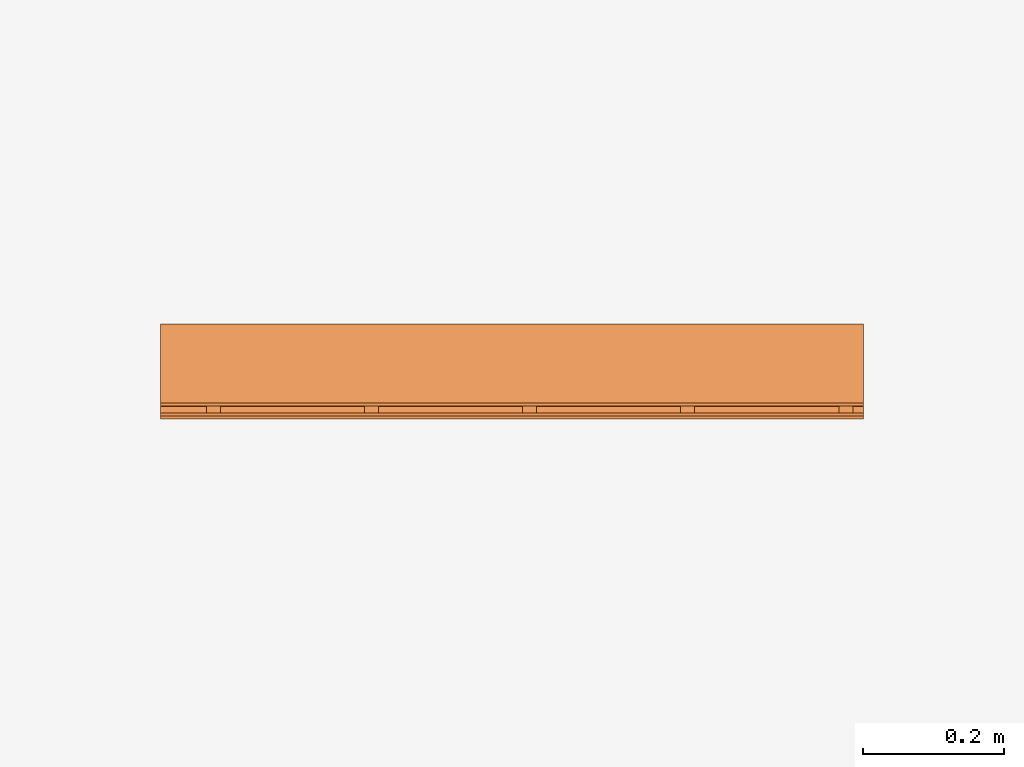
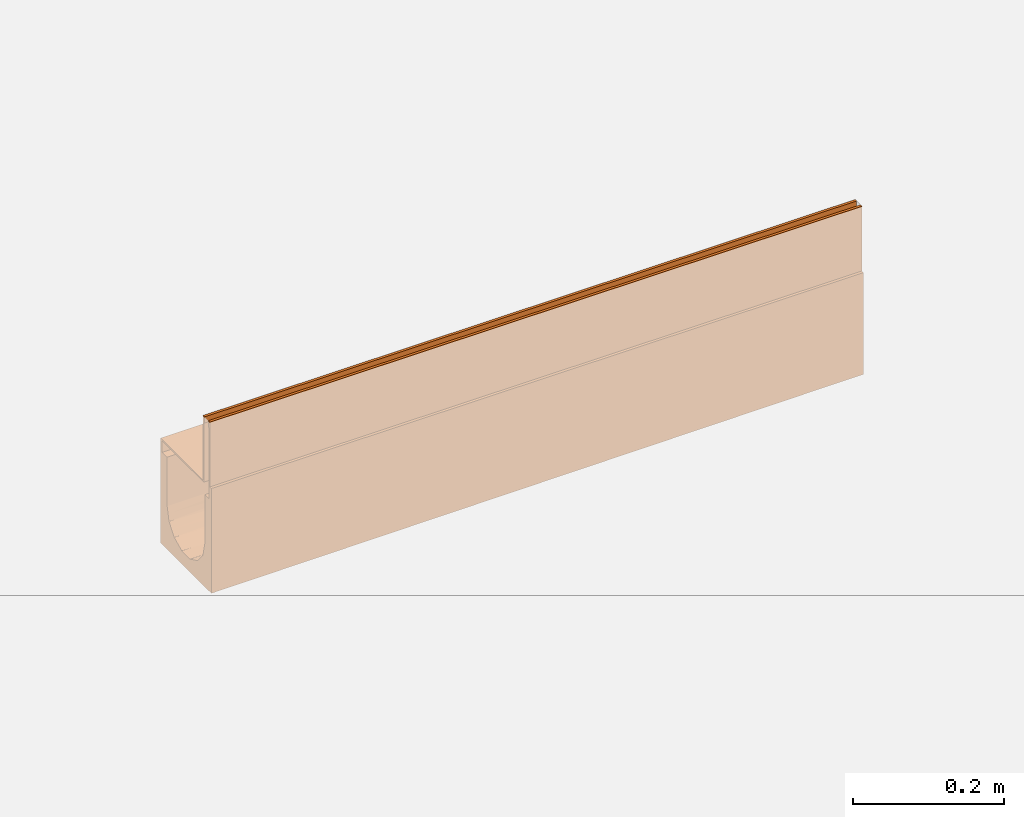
# One storey, part 2 of 2: 1 proxy.
"""IFC2X3 building model written with IfcOpenShell, lengths in millimetres."""

from ifc_helpers import new_model, entity, si_unit, converted_unit, direction, frame, origin, place, context, subcontext, project, spatial, faceted_brep, source, transform, mapped, material, material_list, element, save


model = new_model("IFC2X3")

# Units and contexts
model_context = context("Model", 3, precision=1e-06, world=origin(), true_north=direction((2.0, 6.12303176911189e-17, 1.0)))
context_of_model = context(None, 3, precision=1e-06, world=origin(), true_north=direction((2.0, 6.12303176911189e-17, 1.0)))
body_context = subcontext(model_context, "Body", "Model", "MODEL_VIEW")
ifc_project = project(units=[si_unit("LENGTHUNIT", "METRE", prefix="MILLI"), si_unit("AREAUNIT", "SQUARE_METRE", prefix="MILLI"), si_unit("VOLUMEUNIT", "CUBIC_METRE", prefix="MILLI"), converted_unit("PLANEANGLEUNIT", "DEGREE", entity("IfcRatioMeasure", 0.0174532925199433), si_unit("PLANEANGLEUNIT", "RADIAN"), dimensions=[0, 0, 0, 0, 0, 0, 0]), si_unit("TIMEUNIT", "SECOND")], contexts=[model_context, context_of_model])

# Site, building, storey
site_placement = place(None, origin())
site = spatial("IfcSite", under=ifc_project, at=site_placement, Name="Default", CompositionType="ELEMENT")
building_placement = place(site_placement, origin())
building = spatial("IfcBuilding", under=site, at=building_placement, CompositionType="ELEMENT")
storey_placement = place(building_placement, origin())
storey = spatial("IfcBuildingStorey", under=building, at=storey_placement, Name="Level 1", CompositionType="ELEMENT", Elevation=0.0)

# Proxy
ifc_material_1 = material(Name="Steel, Galvanized")
ifc_material_2 = material(Name="Vienite® Synthetic Resin Concrete")
ifc_material_list = material_list([ifc_material_1, ifc_material_2])
shared_shape = source(origin(), body_context, "Body", "Brep", [
    faceted_brep([(63.249999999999, 15.0, -107.0), (63.249999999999, 17.0, -109.0), (63.249999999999, 33.0, -109.0), (63.249999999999, 35.0, -107.0), (63.249999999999, 17.0, -123.499999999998), (63.249999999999, 15.0, -125.499999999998), (63.249999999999, 33.0, -123.499999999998), (63.249999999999, 35.0, -125.499999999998), (-61.250000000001, 15.0, -125.499999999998), (-61.250000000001, 17.0, -123.499999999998), (-61.250000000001, 33.0, -123.499999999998), (-61.250000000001, 35.0, -125.499999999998), (-61.250000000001, 17.0, -109.0), (-61.250000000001, 15.0, -107.0), (-61.250000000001, 33.0, -109.0), (-61.250000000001, 35.0, -107.0)], [[[0, 1, 2, 3]], [[4, 1, 0, 5]], [[3, 2, 6, 7]], [[6, 4, 5, 7]], [[8, 9, 10, 11]], [[12, 9, 8, 13]], [[11, 10, 14, 15]], [[14, 12, 13, 15]], [[5, 0, 13, 8]], [[7, 5, 8, 11]], [[3, 7, 11, 15]], [[0, 3, 15, 13]], [[1, 4, 9, 12]], [[14, 2, 1, 12]], [[6, 2, 14, 10]], [[9, 4, 6, 10]]]),
    faceted_brep([(-47.2500000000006, 0.0, -10.0), (-47.2500000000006, 0.0, -107.0), (-45.2500000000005, 0.0, -105.0), (-45.2500000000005, 0.0, 0.0), (-49.2500000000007, 0.0, 0.0), (-49.2500000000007, 0.0, -10.0), (63.2499999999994, 0.0, -107.0), (63.2499999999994, 0.0, -105.0), (-45.2500000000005, 1000.0, -105.0), (63.2499999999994, 1000.0, -105.0), (63.2499999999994, 1000.0, -107.0), (-47.2500000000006, 1000.0, -107.0), (-47.2500000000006, 1000.0, -10.0), (-45.2500000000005, 1000.0, 0.0), (-49.2500000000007, 1000.0, -10.0), (-49.2500000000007, 1000.0, 0.0)], [[[0, 1, 2, 3]], [[4, 5, 0, 3]], [[6, 7, 2, 1]], [[8, 9, 10, 11]], [[12, 13, 8, 11]], [[12, 14, 15, 13]], [[0, 5, 14, 12]], [[11, 1, 0, 12]], [[6, 1, 11, 10]], [[9, 7, 6, 10]], [[8, 2, 7, 9]], [[3, 2, 8, 13]], [[15, 4, 3, 13]], [[5, 4, 15, 14]]]),
    faceted_brep([(-59.2500000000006, 1000.0, 0.0), (-59.2500000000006, 1000.0, -10.0), (-61.2500000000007, 1000.0, -10.0), (-63.2500000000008, 1000.0, 0.0), (-63.2500000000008, 1000.0, -125.499999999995), (-61.2500000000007, 1000.0, -125.499999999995), (-61.2500000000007, 0.0, -10.0), (-63.2500000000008, 0.0, 0.0), (-63.2500000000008, 0.0, -125.499999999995), (-61.2500000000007, 0.0, -125.499999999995), (-59.2500000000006, 0.0, 0.0), (-59.2500000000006, 0.0, -10.0)], [[[0, 1, 2, 3]], [[4, 3, 2, 5]], [[6, 7, 8, 9]], [[10, 7, 6, 11]], [[9, 8, 4, 5]], [[6, 9, 5, 2]], [[11, 6, 2, 1]], [[10, 11, 1, 0]], [[3, 7, 10, 0]], [[4, 8, 7, 3]]]),
    faceted_brep([(63.2499999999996, 465.0, -107.0), (63.2499999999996, 467.0, -109.0), (63.2499999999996, 483.0, -109.0), (63.2499999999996, 485.0, -107.0), (63.2499999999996, 467.0, -123.499999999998), (63.2499999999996, 465.0, -125.499999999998), (63.2499999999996, 483.0, -123.499999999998), (63.2499999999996, 485.0, -125.499999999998), (-61.2500000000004, 465.0, -125.499999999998), (-61.2500000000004, 467.0, -123.499999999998), (-61.2500000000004, 483.0, -123.499999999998), (-61.2500000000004, 485.0, -125.499999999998), (-61.2500000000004, 467.0, -109.0), (-61.2500000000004, 465.0, -107.0), (-61.2500000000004, 483.0, -109.0), (-61.2500000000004, 485.0, -107.0)], [[[0, 1, 2, 3]], [[4, 1, 0, 5]], [[3, 2, 6, 7]], [[6, 4, 5, 7]], [[8, 9, 10, 11]], [[12, 9, 8, 13]], [[11, 10, 14, 15]], [[14, 12, 13, 15]], [[5, 0, 13, 8]], [[7, 5, 8, 11]], [[3, 7, 11, 15]], [[0, 3, 15, 13]], [[1, 4, 9, 12]], [[2, 1, 12, 14]], [[6, 2, 14, 10]], [[4, 6, 10, 9]]]),
    faceted_brep([(63.2499999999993, 240.0, -107.0), (63.2499999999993, 242.0, -109.0), (63.2499999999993, 258.0, -109.0), (63.2499999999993, 260.0, -107.0), (63.2499999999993, 242.0, -123.499999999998), (63.2499999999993, 240.0, -125.499999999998), (63.2499999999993, 258.0, -123.499999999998), (63.2499999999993, 260.0, -125.499999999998), (-61.2500000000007, 240.0, -125.499999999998), (-61.2500000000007, 242.0, -123.499999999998), (-61.2500000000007, 258.0, -123.499999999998), (-61.2500000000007, 260.0, -125.499999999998), (-61.2500000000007, 242.0, -109.0), (-61.2500000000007, 240.0, -107.0), (-61.2500000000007, 258.0, -109.0), (-61.2500000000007, 260.0, -107.0)], [[[0, 1, 2, 3]], [[4, 1, 0, 5]], [[3, 2, 6, 7]], [[6, 4, 5, 7]], [[8, 9, 10, 11]], [[12, 9, 8, 13]], [[11, 10, 14, 15]], [[14, 12, 13, 15]], [[5, 0, 13, 8]], [[7, 5, 8, 11]], [[3, 7, 11, 15]], [[0, 3, 15, 13]], [[1, 4, 9, 12]], [[2, 1, 12, 14]], [[6, 2, 14, 10]], [[4, 6, 10, 9]]]),
    faceted_brep([(63.2500000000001, 915.0, -107.0), (63.2500000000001, 917.0, -109.0), (63.2500000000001, 933.0, -109.0), (63.2500000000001, 935.0, -107.0), (63.2500000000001, 917.0, -123.499999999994), (63.2500000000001, 915.0, -125.499999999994), (63.2500000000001, 933.0, -123.499999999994), (63.2500000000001, 935.0, -125.499999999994), (-61.2499999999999, 915.0, -125.499999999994), (-61.2499999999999, 917.0, -123.499999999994), (-61.2499999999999, 933.0, -123.499999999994), (-61.2499999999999, 935.0, -125.499999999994), (-61.2499999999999, 917.0, -109.0), (-61.2499999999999, 915.0, -107.0), (-61.2499999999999, 933.0, -109.0), (-61.2499999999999, 935.0, -107.0)], [[[0, 1, 2, 3]], [[4, 1, 0, 5]], [[3, 2, 6, 7]], [[6, 4, 5, 7]], [[8, 9, 10, 11]], [[12, 9, 8, 13]], [[11, 10, 14, 15]], [[14, 12, 13, 15]], [[5, 0, 13, 8]], [[11, 7, 5, 8]], [[3, 7, 11, 15]], [[13, 0, 3, 15]], [[1, 4, 9, 12]], [[2, 1, 12, 14]], [[6, 2, 14, 10]], [[4, 6, 10, 9]]]),
    faceted_brep([(63.2499999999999, 690.0, -107.0), (63.2499999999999, 692.0, -109.0), (63.2499999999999, 708.0, -109.0), (63.2499999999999, 710.0, -107.0), (63.2499999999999, 692.0, -123.499999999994), (63.2499999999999, 690.0, -125.499999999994), (63.2499999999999, 708.0, -123.499999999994), (63.2499999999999, 710.0, -125.499999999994), (-61.2500000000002, 690.0, -125.499999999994), (-61.2500000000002, 692.0, -123.499999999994), (-61.2500000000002, 708.0, -123.499999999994), (-61.2500000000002, 710.0, -125.499999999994), (-61.2500000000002, 692.0, -109.0), (-61.2500000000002, 690.0, -107.0), (-61.2500000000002, 708.0, -109.0), (-61.2500000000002, 710.0, -107.0)], [[[0, 1, 2, 3]], [[4, 1, 0, 5]], [[3, 2, 6, 7]], [[6, 4, 5, 7]], [[8, 9, 10, 11]], [[12, 9, 8, 13]], [[11, 10, 14, 15]], [[14, 12, 13, 15]], [[5, 0, 13, 8]], [[11, 7, 5, 8]], [[3, 7, 11, 15]], [[13, 0, 3, 15]], [[1, 4, 9, 12]], [[2, 1, 12, 14]], [[6, 2, 14, 10]], [[4, 6, 10, 9]]]),
    faceted_brep([(-67.4999999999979, 1000.0, -105.0), (-63.2499999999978, 1000.0, -105.0), (-63.2499999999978, 1000.0, -125.500000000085), (-67.4999999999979, 1000.0, -275.0), (-50.0, 1000.0, -125.500000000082), (-50.0, 1000.0, -205.0), (-47.5242216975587, 1000.0, -215.847093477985), (-45.0484433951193, 1000.0, -226.694186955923), (-31.1744900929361, 1000.0, -244.091574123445), (-21.1502683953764, 1000.0, -248.91898486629), (-11.1260466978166, 1000.0, -253.746395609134), (-38.1114667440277, 1000.0, -235.392880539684), (0.0, 1000.0, -253.746395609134), (11.126046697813, 1000.0, -253.746395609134), (50.0, 1000.0, -205.0), (50.0, 1000.0, -125.500000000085), (63.249999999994, 1000.0, -125.500000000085), (67.500000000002, 1000.0, -275.0), (63.249999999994, 1000.0, -105.0), (67.500000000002, 1000.0, -105.0), (21.1502683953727, 1000.0, -248.91898486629), (31.1744900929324, 1000.0, -244.091574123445), (45.0484433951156, 1000.0, -226.694186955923), (47.5242216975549, 1000.0, -215.847093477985), (38.111466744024, 1000.0, -235.392880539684), (-67.5000000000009, 0.0, -270.0), (-45.0484433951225, 0.0, -221.694186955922), (-46.5542373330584, 0.0, -215.096872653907), (-50.0, 0.0, -200.0), (-31.1744900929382, 0.0, -239.091574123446), (-38.1114667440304, 0.0, -230.392880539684), (-11.1260466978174, 0.0, -248.746395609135), (-21.1502683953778, 0.0, -243.91898486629), (11.1260466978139, 0.0, -248.746395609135), (0.0, 0.0, -248.746395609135), (67.4999999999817, 0.0, -270.0), (-63.2499999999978, 0.0, -125.500000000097), (-63.2499999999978, 0.0, -105.0), (-67.5000000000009, 0.0, -105.0), (-50.0, 0.0, -125.500000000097), (31.1744900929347, 0.0, -239.091574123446), (21.1502683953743, 0.0, -243.91898486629), (50.0, 0.0, -200.0), (46.5542371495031, 0.0, -215.096873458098), (45.0484433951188, 0.0, -221.694186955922), (38.1114667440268, 0.0, -230.392880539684), (63.2500000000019, 0.0, -125.500000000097), (50.0, 0.0, -125.500000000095), (67.4999999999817, 0.0, -105.0), (63.2500000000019, 0.0, -105.0), (-50.0, 250.000013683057, -201.25000006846), (-35.5430016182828, 477.55479373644, -237.554449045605), (-39.0915746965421, 301.904841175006, -232.684013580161), (-30.4065854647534, 315.866317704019, -241.271138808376), (39.0915767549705, 653.204744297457, -234.44051051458), (43.1307072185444, 488.864082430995, -227.737443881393), (44.2106003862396, 635.514288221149, -226.531860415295), (-39.0915747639, 653.204746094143, -234.440513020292), (-29.696093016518, 646.565597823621, -243.458964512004), (-47.3876306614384, 374.999991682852, -217.82531219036), (-48.89171460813, 518.387005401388, -213.060948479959), (-2.91588081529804e-06, 301.904832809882, -251.509524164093), (-10.9684170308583, 305.042894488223, -250.307320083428), (-5.5982252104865, 150.952413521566, -250.440372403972), (12.0741057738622, 315.866299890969, -250.099594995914), (5.33371147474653, 477.554791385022, -252.10247522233), (35.3553400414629, 150.952387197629, -236.110100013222), (-41.8233658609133, 146.584549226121, -228.133763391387), (42.1728888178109, 829.135588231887, -231.005451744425), (47.0016510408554, 843.632235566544, -221.272333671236), (-50.0, 749.999986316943, -203.749999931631), (-47.0016499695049, 843.632222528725, -221.27233655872), (-21.6941880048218, 209.065851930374, -246.093772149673), (-35.3553394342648, 150.952420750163, -236.110100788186), (-34.4525207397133, 816.145858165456, -240.316399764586), (-25.646806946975, 806.214865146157, -246.952412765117), (21.6941814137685, 500.0, -247.548446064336), (29.6960925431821, 646.565642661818, -243.458965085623), (16.1554098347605, 747.818208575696, -251.057192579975), (-3.27550310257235e-06, 653.204751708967, -253.266023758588), (-8.54111809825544, 477.617179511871, -251.653178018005), (21.6941852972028, 209.065841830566, -246.093773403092), (-46.4228776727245, 186.188946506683, -219.502870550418), (34.4525215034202, 816.145876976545, -240.316399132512), (49.2918467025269, 134.881431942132, -209.0597424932), (47.3876313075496, 374.999975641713, -217.825310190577), (46.4228780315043, 186.188933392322, -219.502869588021), (-50.0, 499.999972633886, -202.499999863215), (39.0915763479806, 301.904795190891, -232.684011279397), (41.8233665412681, 146.584526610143, -228.133762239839), (25.6468067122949, 806.214870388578, -246.952412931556), (-5.38536224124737, 826.602379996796, -253.842144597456), (-16.1554121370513, 747.81816965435, -251.057191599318), (35.5430053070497, 477.554758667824, -237.554445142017), (-42.1728873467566, 829.135597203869, -231.005454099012), (5.59822218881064, 150.952412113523, -250.440372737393), (30.4065855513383, 315.866251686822, -241.271138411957), (-43.1307054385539, 488.864104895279, -227.737447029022), (-44.2105988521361, 635.514296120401, -226.531863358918), (-49.2918465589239, 134.881438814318, -209.059743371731), (-47.7236140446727, 671.453379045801, -218.272248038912), (48.8917149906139, 518.386993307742, -213.060946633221), (50.0, 250.000027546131, -201.250000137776), (50.0, 499.999944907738, -202.499999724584), (50.0, 749.999972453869, -203.749999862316), (47.7236147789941, 671.453375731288, -218.272245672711), (-22.9273943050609, 354.532924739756, -246.206149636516), (-21.6941890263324, 500.0, -247.548442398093), (5.80423086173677, 807.818012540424, -253.701056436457), (22.9273914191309, 354.532889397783, -246.206150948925)], [[[0, 1, 2, 3]], [[2, 4, 5, 3]], [[3, 5, 6, 7]], [[3, 8, 9, 10]], [[3, 7, 11, 8]], [[3, 10, 12, 13]], [[14, 15, 16, 17]], [[16, 18, 19, 17]], [[17, 13, 20, 21]], [[17, 22, 23, 14]], [[17, 21, 24, 22]], [[13, 17, 3]], [[25, 26, 27, 28]], [[25, 29, 30, 26]], [[25, 31, 32, 29]], [[33, 34, 25, 35]], [[36, 37, 38, 25]], [[28, 39, 36, 25]], [[35, 40, 41, 33]], [[35, 42, 43, 44]], [[35, 44, 45, 40]], [[46, 47, 42, 35]], [[48, 49, 46, 35]], [[1, 37, 36, 2]], [[0, 38, 37, 1]], [[0, 3, 25, 38]], [[3, 17, 35, 25]], [[19, 48, 35, 17]], [[18, 49, 48, 19]], [[16, 46, 49, 18]], [[16, 15, 47, 46]], [[4, 39, 28, 50]], [[2, 36, 39, 4]], [[51, 52, 53]], [[54, 55, 56]], [[57, 51, 58]], [[59, 60, 50]], [[61, 62, 63]], [[61, 64, 65]], [[40, 45, 66]], [[30, 67, 26]], [[68, 69, 22]], [[70, 71, 6]], [[29, 72, 73]], [[74, 75, 8]], [[76, 77, 78]], [[65, 79, 80]], [[66, 81, 40]], [[27, 26, 82]], [[24, 83, 68]], [[84, 85, 86]], [[87, 50, 60, 70]], [[88, 66, 89]], [[58, 75, 74]], [[83, 90, 77]], [[91, 10, 92]], [[76, 93, 77]], [[54, 93, 55]], [[94, 57, 74]], [[30, 73, 67]], [[63, 72, 31]], [[61, 63, 95]], [[72, 53, 73]], [[45, 89, 66]], [[93, 76, 96]], [[97, 98, 60]], [[27, 82, 99]], [[52, 51, 97]], [[98, 94, 71]], [[98, 71, 100]], [[101, 102, 103, 104]], [[102, 101, 85]], [[84, 86, 43]], [[104, 69, 105]], [[69, 68, 56]], [[28, 27, 99]], [[52, 59, 82]], [[99, 59, 50]], [[72, 29, 32, 31]], [[29, 73, 30]], [[67, 52, 82]], [[95, 34, 33]], [[73, 53, 52]], [[72, 106, 53]], [[107, 58, 51]], [[107, 51, 53]], [[97, 51, 57]], [[58, 107, 92]], [[74, 57, 58]], [[80, 92, 107]], [[79, 108, 91]], [[98, 97, 57]], [[52, 97, 59]], [[52, 67, 73]], [[26, 67, 82]], [[92, 10, 9]], [[74, 11, 94]], [[92, 9, 75]], [[94, 7, 71]], [[75, 58, 92]], [[59, 99, 82]], [[28, 99, 50]], [[11, 74, 8]], [[11, 7, 94]], [[8, 75, 9]], [[70, 6, 5]], [[71, 70, 100]], [[71, 7, 6]], [[43, 86, 44]], [[42, 102, 84]], [[88, 86, 85]], [[42, 84, 43]], [[85, 84, 102]], [[81, 66, 96]], [[86, 89, 44]], [[81, 33, 41, 40]], [[96, 66, 88]], [[95, 64, 61]], [[93, 96, 88]], [[109, 81, 96]], [[55, 88, 85]], [[93, 54, 77]], [[54, 83, 77]], [[90, 78, 77]], [[12, 91, 108]], [[65, 78, 79]], [[88, 55, 93]], [[55, 85, 101]], [[44, 89, 45]], [[88, 89, 86]], [[68, 83, 54]], [[20, 90, 21]], [[68, 54, 56]], [[24, 21, 83]], [[78, 20, 13]], [[68, 22, 24]], [[21, 90, 83]], [[20, 78, 90]], [[101, 104, 105]], [[104, 23, 69]], [[23, 104, 14]], [[91, 92, 79]], [[23, 22, 69]], [[63, 31, 34]], [[33, 81, 95]], [[64, 95, 81]], [[109, 64, 81]], [[76, 78, 65]], [[76, 65, 64]], [[79, 92, 80]], [[107, 106, 62]], [[61, 65, 80]], [[95, 63, 34]], [[61, 80, 62]], [[107, 62, 80]], [[72, 63, 62]], [[97, 60, 59]], [[70, 60, 100]], [[101, 105, 56]], [[62, 106, 72]], [[107, 53, 106]], [[94, 98, 57]], [[60, 98, 100]], [[96, 76, 109]], [[64, 109, 76]], [[101, 56, 55]], [[56, 105, 69]], [[108, 79, 78]], [[10, 91, 12]], [[78, 13, 108]], [[12, 108, 13]], [[15, 14, 104, 103]], [[47, 15, 42]], [[25, 34, 31]], [[4, 50, 87, 70]], [[4, 70, 5]], [[15, 103, 102, 42]]]),
])
proxy_placement = place(storey_placement, frame((143.656586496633, 99.9218925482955, 0.0), z_axis=(0.0, 0.0, 1.0), x_axis=(0.0, 1.0, 0.0)))
element("IfcBuildingElementProxy", 1, at=proxy_placement, inside=storey, material=ifc_material_list, Name="Civil-Drainage-Channel-ACO-MultiDrain-M100D-Brickslot-Channel-System:23004 - No 4 Sloping Channel - 1000mm LG - Invert Depth 145/150mm:23004 - No 4 Sloping Channel - 1000mm LG - Invert Depth 145/150mm", ObjectType="23004 - No 4 Sloping Channel - 1000mm LG - Invert Depth 145/150mm", CompositionType="ELEMENT", context=body_context, shape_type="MappedRepresentation", body=[
    mapped(shared_shape, transform((0.0, 0.0, 0.0), scale=1.0)),
])

save(model, "model.ifc")
